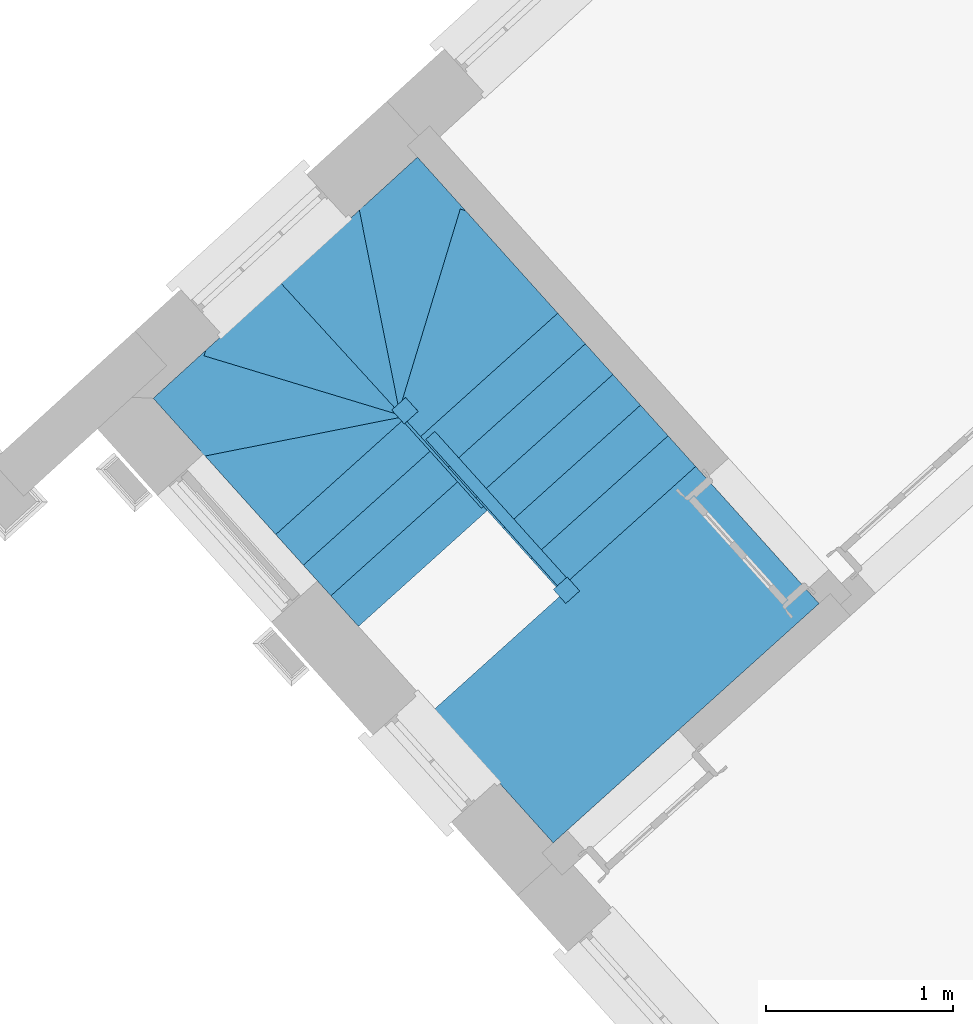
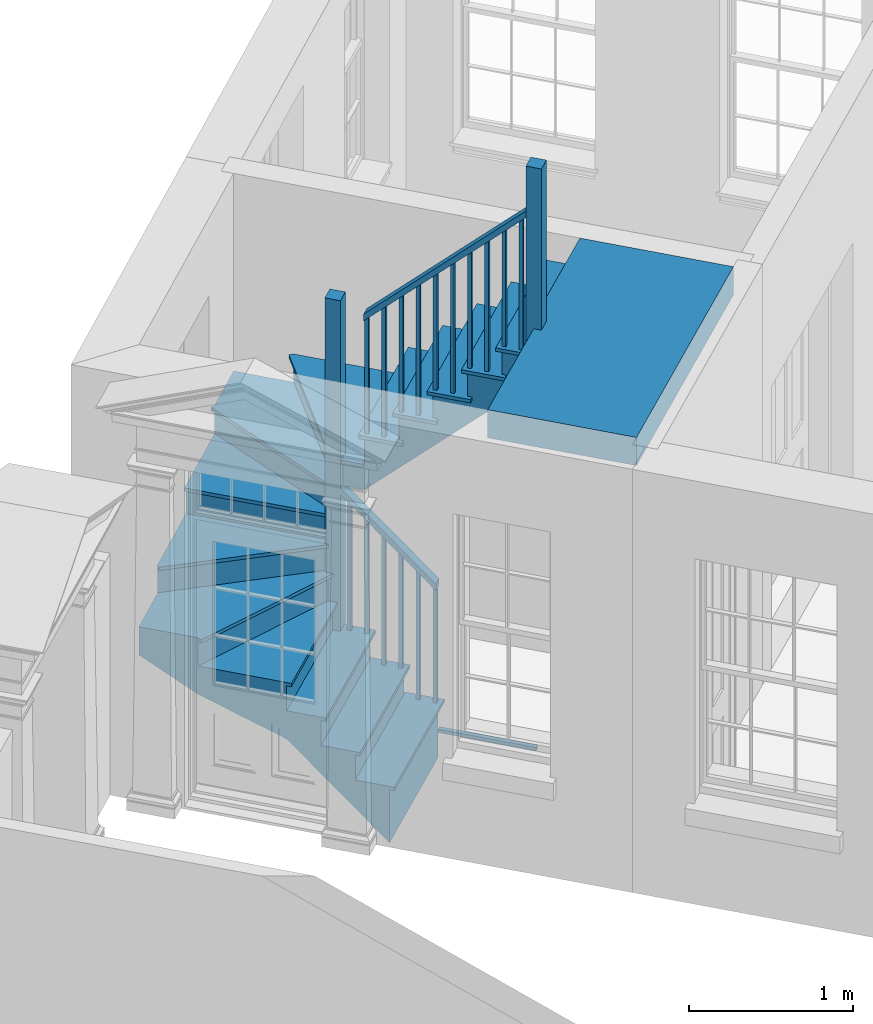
# One storey, part 7 of 7: 1 stair.
"""IFC4 building model written with IfcOpenShell, lengths in metres."""

from ifc_helpers import new_model, si_unit, frame, origin, origin_with_axes, place, context, subcontext, project, spatial, faceted_brep, element, save


model = new_model("IFC4")

# Units and contexts
model_context = context("Model", 3, world=origin_with_axes())
body_context = subcontext(model_context, "Body", "Model", "MODEL_VIEW")
ifc_project = project(units=[si_unit("PLANEANGLEUNIT", "RADIAN"), si_unit("MASSUNIT", "GRAM", prefix="KILO"), si_unit("FORCEUNIT", "NEWTON", prefix="KILO"), si_unit("LENGTHUNIT", "METRE"), si_unit("AREAUNIT", "SQUARE_METRE"), si_unit("VOLUMEUNIT", "CUBIC_METRE")], contexts=[model_context, model_context])

# Sites, building, storey
site_1_placement = place(None, origin_with_axes())
site_1 = spatial("IfcSite", under=ifc_project, at=site_1_placement, Name="Tamar")
site_2_placement = place(site_1_placement, origin_with_axes())
site_2 = spatial("IfcSite", under=site_1, at=site_2_placement, Name="Site plot-7", CompositionType="ELEMENT")
building_placement = place(None, origin_with_axes())
building = spatial("IfcBuilding", under=site_2, at=building_placement, Name="Building plot-7", CompositionType="ELEMENT")
storey_placement = place(None, frame((0.0, 0.0, 26.0), z_axis=(0.0, 0.0, 1.0), x_axis=(1.0, 0.0, 0.0)))
storey = spatial("IfcBuildingStorey", under=building, at=storey_placement, Name="plot-7 0", CompositionType="ELEMENT", Elevation=26.0)

# Stair
stair_placement = place(None, origin())
element("IfcStair", 1, at=stair_placement, inside=storey, Name="Stair", PredefinedType="NOTDEFINED", context=body_context, shape_type="Brep", body=[
    faceted_brep([(241.789682, 286.104978, 28.94), (242.499166, 286.743323, 28.94), (242.352018, 286.906869, 28.94), (241.642534, 286.268525, 28.94), (241.642534, 286.268525, 28.52), (242.352018, 286.906869, 28.52), (242.499166, 286.743323, 28.73), (241.789682, 286.104978, 28.73)], [[[0, 1, 2, 3]], [[4, 5, 6, 7]], [[7, 6, 1, 0]], [[1, 6, 5, 2]], [[5, 4, 3, 2]], [[3, 4, 7, 0]]]),
    faceted_brep([(242.352018, 286.906869, 28.915), (242.331953, 286.929171, 28.915), (242.352018, 286.906869, 28.94), (242.519232, 286.721021, 28.915), (242.499166, 286.743323, 28.915), (242.499166, 286.743323, 28.94), (242.331953, 286.929171, 28.94), (242.519232, 286.721021, 28.94), (241.600167, 286.270761, 28.94), (241.642534, 286.268525, 28.94), (241.642534, 286.268525, 28.915), (241.600167, 286.270761, 28.915), (241.787446, 286.062611, 28.94), (241.789682, 286.104978, 28.94), (241.789682, 286.104978, 28.915), (241.787446, 286.062611, 28.915)], [[[0, 1, 2]], [[3, 4, 5]], [[1, 6, 2]], [[7, 3, 5]], [[2, 6, 8, 9]], [[0, 2, 9, 10]], [[1, 0, 10, 11]], [[6, 1, 11, 8]], [[9, 8, 12, 13]], [[10, 9, 13, 14]], [[11, 10, 14, 15]], [[8, 11, 15, 12]], [[13, 12, 7, 5]], [[14, 13, 5, 4]], [[15, 14, 4, 3]], [[12, 15, 3, 7]]]),
    faceted_brep([(241.642534, 286.268525, 29.84), (241.659255, 286.24994, 29.84), (241.67784, 286.266662, 29.84), (241.661119, 286.285246, 29.84), (241.661119, 286.285246, 28.94), (241.67784, 286.266662, 28.94), (241.659255, 286.24994, 28.94), (241.642534, 286.268525, 28.94)], [[[0, 1, 2, 3]], [[4, 5, 6, 7]], [[7, 6, 1, 0]], [[6, 5, 2, 1]], [[5, 4, 3, 2]], [[4, 7, 0, 3]]]),
    faceted_brep([(241.716108, 286.186752, 29.945), (241.732829, 286.168167, 29.945), (241.751414, 286.184888, 29.945), (241.734693, 286.203473, 29.945), (241.734693, 286.203473, 28.94), (241.751414, 286.184888, 28.94), (241.732829, 286.168167, 28.94), (241.716108, 286.186752, 28.94)], [[[0, 1, 2, 3]], [[4, 5, 6, 7]], [[7, 6, 1, 0]], [[6, 5, 2, 1]], [[5, 4, 3, 2]], [[4, 7, 0, 3]]]),
    faceted_brep([(241.675987, 286.298624, 29.79), (241.627666, 286.255148, 29.79), (241.627666, 286.255148, 29.84), (241.675987, 286.298624, 29.84), (241.774814, 286.091601, 30.0), (241.823135, 286.135077, 30.0), (241.823135, 286.135077, 30.05), (241.774814, 286.091601, 30.05)], [[[0, 1, 2, 3]], [[4, 5, 6, 7]], [[0, 5, 4, 1]], [[3, 2, 7, 6]], [[0, 3, 6, 5]], [[2, 1, 4, 7]]]),
    faceted_brep([(241.642534, 286.268525, 28.73), (242.352018, 286.906869, 28.73), (242.204871, 287.070416, 28.73), (241.495386, 286.432072, 28.73), (241.495386, 286.432072, 28.31), (242.204871, 287.070416, 28.31), (242.352018, 286.906869, 28.52), (241.642534, 286.268525, 28.52)], [[[0, 1, 2, 3]], [[4, 5, 6, 7]], [[7, 6, 1, 0]], [[1, 6, 5, 2]], [[5, 4, 3, 2]], [[3, 4, 7, 0]]]),
    faceted_brep([(242.204871, 287.070416, 28.705), (242.184805, 287.092718, 28.705), (242.204871, 287.070416, 28.73), (242.372084, 286.884567, 28.705), (242.352018, 286.906869, 28.705), (242.352018, 286.906869, 28.73), (242.184805, 287.092718, 28.73), (242.372084, 286.884567, 28.73), (241.453019, 286.434308, 28.73), (241.495386, 286.432072, 28.73), (241.495386, 286.432072, 28.705), (241.453019, 286.434308, 28.705), (241.640298, 286.226158, 28.73), (241.642534, 286.268525, 28.73), (241.642534, 286.268525, 28.705), (241.640298, 286.226158, 28.705)], [[[0, 1, 2]], [[3, 4, 5]], [[1, 6, 2]], [[7, 3, 5]], [[2, 6, 8, 9]], [[0, 2, 9, 10]], [[1, 0, 10, 11]], [[6, 1, 11, 8]], [[9, 8, 12, 13]], [[10, 9, 13, 14]], [[11, 10, 14, 15]], [[8, 11, 15, 12]], [[13, 12, 7, 5]], [[14, 13, 5, 4]], [[15, 14, 4, 3]], [[12, 15, 3, 7]]]),
    faceted_brep([(241.495386, 286.432072, 29.63), (241.512108, 286.413487, 29.63), (241.530693, 286.430208, 29.63), (241.513971, 286.448793, 29.63), (241.513971, 286.448793, 28.73), (241.530693, 286.430208, 28.73), (241.512108, 286.413487, 28.73), (241.495386, 286.432072, 28.73)], [[[0, 1, 2, 3]], [[4, 5, 6, 7]], [[7, 6, 1, 0]], [[6, 5, 2, 1]], [[5, 4, 3, 2]], [[4, 7, 0, 3]]]),
    faceted_brep([(241.56896, 286.350298, 29.735), (241.585682, 286.331714, 29.735), (241.604266, 286.348435, 29.735), (241.587545, 286.36702, 29.735), (241.587545, 286.36702, 28.73), (241.604266, 286.348435, 28.73), (241.585682, 286.331714, 28.73), (241.56896, 286.350298, 28.73)], [[[0, 1, 2, 3]], [[4, 5, 6, 7]], [[7, 6, 1, 0]], [[6, 5, 2, 1]], [[5, 4, 3, 2]], [[4, 7, 0, 3]]]),
    faceted_brep([(241.528839, 286.46217, 29.58), (241.480518, 286.418695, 29.58), (241.480518, 286.418695, 29.63), (241.528839, 286.46217, 29.63), (241.627666, 286.255148, 29.79), (241.675987, 286.298624, 29.79), (241.675987, 286.298624, 29.84), (241.627666, 286.255148, 29.84)], [[[0, 1, 2, 3]], [[4, 5, 6, 7]], [[0, 5, 4, 1]], [[3, 2, 7, 6]], [[0, 3, 6, 5]], [[2, 1, 4, 7]]]),
    faceted_brep([(241.495386, 286.432072, 28.52), (242.204871, 287.070416, 28.52), (242.057723, 287.233963, 28.52), (241.348239, 286.595619, 28.52), (241.348239, 286.595619, 28.1), (242.057723, 287.233963, 28.1), (242.204871, 287.070416, 28.31), (241.495386, 286.432072, 28.31)], [[[0, 1, 2, 3]], [[4, 5, 6, 7]], [[7, 6, 1, 0]], [[1, 6, 5, 2]], [[5, 4, 3, 2]], [[3, 4, 7, 0]]]),
    faceted_brep([(242.057723, 287.233963, 28.495), (242.037657, 287.256264, 28.495), (242.057723, 287.233963, 28.52), (242.224936, 287.048114, 28.495), (242.204871, 287.070416, 28.495), (242.204871, 287.070416, 28.52), (242.037657, 287.256264, 28.52), (242.224936, 287.048114, 28.52), (241.305871, 286.597855, 28.52), (241.348239, 286.595619, 28.52), (241.348239, 286.595619, 28.495), (241.305871, 286.597855, 28.495), (241.49315, 286.389704, 28.52), (241.495386, 286.432072, 28.52), (241.495386, 286.432072, 28.495), (241.49315, 286.389704, 28.495)], [[[0, 1, 2]], [[3, 4, 5]], [[1, 6, 2]], [[7, 3, 5]], [[2, 6, 8, 9]], [[0, 2, 9, 10]], [[1, 0, 10, 11]], [[6, 1, 11, 8]], [[9, 8, 12, 13]], [[10, 9, 13, 14]], [[11, 10, 14, 15]], [[8, 11, 15, 12]], [[13, 12, 7, 5]], [[14, 13, 5, 4]], [[15, 14, 4, 3]], [[12, 15, 3, 7]]]),
    faceted_brep([(241.348239, 286.595619, 29.42), (241.36496, 286.577034, 29.42), (241.383545, 286.593755, 29.42), (241.366823, 286.61234, 29.42), (241.366823, 286.61234, 28.52), (241.383545, 286.593755, 28.52), (241.36496, 286.577034, 28.52), (241.348239, 286.595619, 28.52)], [[[0, 1, 2, 3]], [[4, 5, 6, 7]], [[7, 6, 1, 0]], [[6, 5, 2, 1]], [[5, 4, 3, 2]], [[4, 7, 0, 3]]]),
    faceted_brep([(241.421812, 286.513845, 29.525), (241.438534, 286.49526, 29.525), (241.457119, 286.511982, 29.525), (241.440397, 286.530567, 29.525), (241.440397, 286.530567, 28.52), (241.457119, 286.511982, 28.52), (241.438534, 286.49526, 28.52), (241.421812, 286.513845, 28.52)], [[[0, 1, 2, 3]], [[4, 5, 6, 7]], [[7, 6, 1, 0]], [[6, 5, 2, 1]], [[5, 4, 3, 2]], [[4, 7, 0, 3]]]),
    faceted_brep([(241.381691, 286.625717, 29.37), (241.333371, 286.582241, 29.37), (241.333371, 286.582241, 29.42), (241.381691, 286.625717, 29.42), (241.480518, 286.418695, 29.58), (241.528839, 286.46217, 29.58), (241.528839, 286.46217, 29.63), (241.480518, 286.418695, 29.63)], [[[0, 1, 2, 3]], [[4, 5, 6, 7]], [[0, 5, 4, 1]], [[3, 2, 7, 6]], [[0, 3, 6, 5]], [[2, 1, 4, 7]]]),
    faceted_brep([(241.348239, 286.595619, 28.31), (242.057723, 287.233963, 28.31), (241.910575, 287.397509, 28.31), (241.201091, 286.759165, 28.31), (241.201091, 286.759165, 27.89), (241.910575, 287.397509, 27.89), (242.057723, 287.233963, 28.1), (241.348239, 286.595619, 28.1)], [[[0, 1, 2, 3]], [[4, 5, 6, 7]], [[7, 6, 1, 0]], [[1, 6, 5, 2]], [[5, 4, 3, 2]], [[3, 4, 7, 0]]]),
    faceted_brep([(241.910575, 287.397509, 28.285), (241.890509, 287.419811, 28.285), (241.910575, 287.397509, 28.31), (242.077788, 287.211661, 28.285), (242.057723, 287.233963, 28.285), (242.057723, 287.233963, 28.31), (241.890509, 287.419811, 28.31), (242.077788, 287.211661, 28.31), (241.158723, 286.761401, 28.31), (241.201091, 286.759165, 28.31), (241.201091, 286.759165, 28.285), (241.158723, 286.761401, 28.285), (241.346002, 286.553251, 28.31), (241.348239, 286.595619, 28.31), (241.348239, 286.595619, 28.285), (241.346002, 286.553251, 28.285)], [[[0, 1, 2]], [[3, 4, 5]], [[1, 6, 2]], [[7, 3, 5]], [[2, 6, 8, 9]], [[0, 2, 9, 10]], [[1, 0, 10, 11]], [[6, 1, 11, 8]], [[9, 8, 12, 13]], [[10, 9, 13, 14]], [[11, 10, 14, 15]], [[8, 11, 15, 12]], [[13, 12, 7, 5]], [[14, 13, 5, 4]], [[15, 14, 4, 3]], [[12, 15, 3, 7]]]),
    faceted_brep([(241.201091, 286.759165, 29.21), (241.217812, 286.74058, 29.21), (241.236397, 286.757302, 29.21), (241.219676, 286.775887, 29.21), (241.219676, 286.775887, 28.31), (241.236397, 286.757302, 28.31), (241.217812, 286.74058, 28.31), (241.201091, 286.759165, 28.31)], [[[0, 1, 2, 3]], [[4, 5, 6, 7]], [[7, 6, 1, 0]], [[6, 5, 2, 1]], [[5, 4, 3, 2]], [[4, 7, 0, 3]]]),
    faceted_brep([(241.274665, 286.677392, 29.315), (241.291386, 286.658807, 29.315), (241.309971, 286.675528, 29.315), (241.293249, 286.694113, 29.315), (241.293249, 286.694113, 28.31), (241.309971, 286.675528, 28.31), (241.291386, 286.658807, 28.31), (241.274665, 286.677392, 28.31)], [[[0, 1, 2, 3]], [[4, 5, 6, 7]], [[7, 6, 1, 0]], [[6, 5, 2, 1]], [[5, 4, 3, 2]], [[4, 7, 0, 3]]]),
    faceted_brep([(241.234543, 286.789264, 29.16), (241.186223, 286.745788, 29.16), (241.186223, 286.745788, 29.21), (241.234543, 286.789264, 29.21), (241.333371, 286.582241, 29.37), (241.381691, 286.625717, 29.37), (241.381691, 286.625717, 29.42), (241.333371, 286.582241, 29.42)], [[[0, 1, 2, 3]], [[4, 5, 6, 7]], [[0, 5, 4, 1]], [[3, 2, 7, 6]], [[0, 3, 6, 5]], [[2, 1, 4, 7]]]),
    faceted_brep([(241.201091, 286.759165, 28.1), (241.910575, 287.397509, 28.1), (241.763427, 287.561056, 28.1), (241.053943, 286.922712, 28.1), (241.053943, 286.922712, 27.68), (241.763427, 287.561056, 27.68), (241.910575, 287.397509, 27.89), (241.201091, 286.759165, 27.89)], [[[0, 1, 2, 3]], [[4, 5, 6, 7]], [[7, 6, 1, 0]], [[1, 6, 5, 2]], [[5, 4, 3, 2]], [[3, 4, 7, 0]]]),
    faceted_brep([(241.763427, 287.561056, 28.075), (241.743362, 287.583358, 28.075), (241.763427, 287.561056, 28.1), (241.930641, 287.375207, 28.075), (241.910575, 287.397509, 28.075), (241.910575, 287.397509, 28.1), (241.743362, 287.583358, 28.1), (241.930641, 287.375207, 28.1), (241.011575, 286.924948, 28.1), (241.053943, 286.922712, 28.1), (241.053943, 286.922712, 28.075), (241.011575, 286.924948, 28.075), (241.198854, 286.716798, 28.1), (241.201091, 286.759165, 28.1), (241.201091, 286.759165, 28.075), (241.198854, 286.716798, 28.075)], [[[0, 1, 2]], [[3, 4, 5]], [[1, 6, 2]], [[7, 3, 5]], [[2, 6, 8, 9]], [[0, 2, 9, 10]], [[1, 0, 10, 11]], [[6, 1, 11, 8]], [[9, 8, 12, 13]], [[10, 9, 13, 14]], [[11, 10, 14, 15]], [[8, 11, 15, 12]], [[13, 12, 7, 5]], [[14, 13, 5, 4]], [[15, 14, 4, 3]], [[12, 15, 3, 7]]]),
    faceted_brep([(241.053943, 286.922712, 29.0), (241.070664, 286.904127, 29.0), (241.089249, 286.920848, 29.0), (241.072528, 286.939433, 29.0), (241.072528, 286.939433, 28.1), (241.089249, 286.920848, 28.1), (241.070664, 286.904127, 28.1), (241.053943, 286.922712, 28.1)], [[[0, 1, 2, 3]], [[4, 5, 6, 7]], [[7, 6, 1, 0]], [[6, 5, 2, 1]], [[5, 4, 3, 2]], [[4, 7, 0, 3]]]),
    faceted_brep([(241.127517, 286.840939, 29.105), (241.144238, 286.822354, 29.105), (241.162823, 286.839075, 29.105), (241.146102, 286.85766, 29.105), (241.146102, 286.85766, 28.1), (241.162823, 286.839075, 28.1), (241.144238, 286.822354, 28.1), (241.127517, 286.840939, 28.1)], [[[0, 1, 2, 3]], [[4, 5, 6, 7]], [[7, 6, 1, 0]], [[6, 5, 2, 1]], [[5, 4, 3, 2]], [[4, 7, 0, 3]]]),
    faceted_brep([(241.087396, 286.95281, 28.95), (241.039075, 286.909335, 28.95), (241.039075, 286.909335, 29.0), (241.087396, 286.95281, 29.0), (241.186223, 286.745788, 29.16), (241.234543, 286.789264, 29.16), (241.234543, 286.789264, 29.21), (241.186223, 286.745788, 29.21)], [[[0, 1, 2, 3]], [[4, 5, 6, 7]], [[0, 5, 4, 1]], [[3, 2, 7, 6]], [[0, 3, 6, 5]], [[2, 1, 4, 7]]]),
    faceted_brep([(241.053943, 286.922712, 27.89), (241.763427, 287.561056, 27.89), (241.637337, 287.701198, 27.89), (240.927853, 287.062854, 27.89), (240.927853, 287.062854, 27.68), (241.637337, 287.701198, 27.68), (241.763427, 287.561056, 27.68), (241.053943, 286.922712, 27.68)], [[[0, 1, 2, 3]], [[4, 5, 6, 7]], [[7, 6, 1, 0]], [[6, 5, 2, 1]], [[5, 4, 3, 2]], [[4, 7, 0, 3]]]),
    faceted_brep([(240.927853, 287.062854, 27.865), (240.905551, 287.042788, 27.865), (240.927853, 287.062854, 27.89), (241.031641, 286.902646, 27.865), (241.053943, 286.922712, 27.865), (241.053943, 286.922712, 27.89), (240.905551, 287.042788, 27.89), (241.031641, 286.902646, 27.89)], [[[0, 1, 2]], [[3, 4, 5]], [[1, 6, 2]], [[7, 3, 5]], [[2, 6, 7, 5]], [[0, 2, 5, 4]], [[1, 0, 4, 3]], [[6, 1, 3, 7]]]),
    faceted_brep([(240.857241, 287.066581, 29.09), (240.924126, 286.992241, 29.09), (240.998465, 287.059127, 29.09), (240.93158, 287.133466, 29.09), (240.93158, 287.133466, 27.89), (240.998465, 287.059127, 27.89), (240.924126, 286.992241, 27.89), (240.857241, 287.066581, 27.89)], [[[0, 1, 2, 3]], [[4, 5, 6, 7]], [[7, 6, 1, 0]], [[6, 5, 2, 1]], [[5, 4, 3, 2]], [[4, 7, 0, 3]]]),
    faceted_brep([(241.637337, 287.701198, 27.89), (241.251594, 288.129931, 27.89), (240.927853, 287.062854, 27.89), (240.927853, 287.062854, 27.47), (241.251594, 288.129931, 27.47), (241.637337, 287.701198, 27.68)], [[[0, 1, 2]], [[3, 4, 5]], [[0, 5, 4, 1]], [[4, 3, 2, 1]], [[2, 3, 5, 0]]]),
    faceted_brep([(241.251594, 288.129931, 27.865), (241.222886, 288.13864, 27.865), (241.251594, 288.129931, 27.89), (240.899145, 287.071563, 27.865), (240.927853, 287.062854, 27.865), (240.927853, 287.062854, 27.89), (241.222886, 288.13864, 27.89), (240.899145, 287.071563, 27.89)], [[[0, 1, 2]], [[3, 4, 5]], [[1, 6, 2]], [[7, 3, 5]], [[2, 6, 7, 5]], [[0, 2, 5, 4]], [[1, 0, 4, 3]], [[6, 1, 3, 7]]]),
    faceted_brep([(241.251594, 288.129931, 27.68), (240.994431, 288.415752, 27.68), (240.710448, 288.156561, 27.68), (240.927853, 287.062854, 27.68), (240.927853, 287.062854, 27.26), (240.710448, 288.156561, 27.26), (240.994431, 288.415752, 27.47), (241.251594, 288.129931, 27.47)], [[[0, 1, 2, 3]], [[4, 5, 6, 7]], [[7, 6, 1, 0]], [[1, 6, 5, 2]], [[5, 4, 3, 2]], [[3, 4, 7, 0]]]),
    faceted_brep([(240.681024, 288.150712, 27.655), (240.681024, 288.150712, 27.68), (240.710448, 288.156561, 27.655), (240.898429, 287.057005, 27.68), (240.898429, 287.057005, 27.655), (240.927853, 287.062854, 27.655), (240.710448, 288.156561, 27.68), (240.927853, 287.062854, 27.68)], [[[0, 1, 2]], [[3, 4, 5]], [[2, 1, 6]], [[3, 5, 7]], [[6, 1, 3, 7]], [[2, 6, 7, 5]], [[0, 2, 5, 4]], [[1, 0, 4, 3]]]),
    faceted_brep([(240.710448, 288.156561, 27.47), (240.284473, 287.767775, 27.47), (240.927853, 287.062854, 27.47), (240.927853, 287.062854, 27.05), (240.284473, 287.767775, 27.05), (240.710448, 288.156561, 27.26)], [[[0, 1, 2]], [[3, 4, 5]], [[0, 5, 4, 1]], [[4, 3, 2, 1]], [[2, 3, 5, 0]]]),
    faceted_brep([(240.262315, 287.747551, 27.445), (240.262315, 287.747551, 27.47), (240.284473, 287.767775, 27.445), (240.905695, 287.04263, 27.47), (240.905695, 287.04263, 27.445), (240.927853, 287.062854, 27.445), (240.284473, 287.767775, 27.47), (240.927853, 287.062854, 27.47)], [[[0, 1, 2]], [[3, 4, 5]], [[2, 1, 6]], [[3, 5, 7]], [[6, 1, 3, 7]], [[2, 6, 7, 5]], [[0, 2, 5, 4]], [[1, 0, 4, 3]]]),
    faceted_brep([(240.857241, 287.066581, 27.89), (240.924126, 286.992241, 27.89), (240.998465, 287.059127, 27.89), (240.93158, 287.133466, 27.89), (240.93158, 287.133466, 26.97), (240.998465, 287.059127, 26.97), (240.924126, 286.992241, 26.97), (240.857241, 287.066581, 26.97)], [[[0, 1, 2, 3]], [[4, 5, 6, 7]], [[7, 6, 1, 0]], [[6, 5, 2, 1]], [[5, 4, 3, 2]], [[4, 7, 0, 3]]]),
    faceted_brep([(240.927853, 287.062854, 27.05), (240.284473, 287.767775, 27.05), (240.284473, 287.767775, 27.26), (240.927853, 287.062854, 27.26)], [[[0, 1, 2, 3]], [[1, 0, 3, 2]]]),
    faceted_brep([(240.927853, 287.062854, 27.235), (240.95043, 287.043099, 27.235), (240.927853, 287.062854, 27.26), (240.95043, 287.043099, 27.26)], [[[0, 1, 2]], [[1, 0, 2]], [[1, 3, 2]], [[3, 1, 2]]]),
    faceted_brep([(240.924629, 286.992217, 28.46), (240.99849, 287.05963, 28.46), (240.931077, 287.133491, 28.46), (240.857216, 287.066078, 28.46), (240.857216, 287.066078, 27.26), (240.931077, 287.133491, 27.26), (240.99849, 287.05963, 27.26), (240.924629, 286.992217, 27.26)], [[[0, 1, 2, 3]], [[4, 5, 6, 7]], [[7, 6, 1, 0]], [[6, 5, 2, 1]], [[5, 4, 3, 2]], [[4, 7, 0, 3]]]),
    faceted_brep([(240.284473, 287.767775, 27.26), (239.864522, 287.384486, 27.26), (240.927853, 287.062854, 27.26), (240.927853, 287.062854, 26.84), (239.864522, 287.384486, 26.84), (240.284473, 287.767775, 27.05)], [[[0, 1, 2]], [[3, 4, 5]], [[0, 5, 4, 1]], [[4, 3, 2, 1]], [[2, 3, 5, 0]]]),
    faceted_brep([(239.864522, 287.384486, 27.235), (239.855836, 287.35577, 27.235), (239.864522, 287.384486, 27.26), (240.919167, 287.034139, 27.235), (240.927853, 287.062854, 27.235), (240.927853, 287.062854, 27.26), (239.855836, 287.35577, 27.26), (240.919167, 287.034139, 27.26)], [[[0, 1, 2]], [[3, 4, 5]], [[1, 6, 2]], [[7, 3, 5]], [[2, 6, 7, 5]], [[0, 2, 5, 4]], [[1, 0, 4, 3]], [[6, 1, 3, 7]]]),
    faceted_brep([(239.864522, 287.384486, 27.05), (239.584554, 287.12896, 27.05), (239.83808, 286.84718, 27.05), (240.927853, 287.062854, 27.05), (240.927853, 287.062854, 26.63), (239.83808, 286.84718, 26.63), (239.584554, 287.12896, 26.84), (239.864522, 287.384486, 26.84)], [[[0, 1, 2, 3]], [[4, 5, 6, 7]], [[7, 6, 1, 0]], [[1, 6, 5, 2]], [[5, 4, 3, 2]], [[3, 4, 7, 0]]]),
    faceted_brep([(239.83808, 286.84718, 27.025), (239.843904, 286.81775, 27.025), (239.83808, 286.84718, 27.05), (240.933677, 287.033425, 27.025), (240.927853, 287.062854, 27.025), (240.927853, 287.062854, 27.05), (239.843904, 286.81775, 27.05), (240.933677, 287.033425, 27.05)], [[[0, 1, 2]], [[3, 4, 5]], [[1, 6, 2]], [[7, 3, 5]], [[2, 6, 7, 5]], [[0, 2, 5, 4]], [[1, 0, 4, 3]], [[6, 1, 3, 7]]]),
    faceted_brep([(239.83808, 286.84718, 26.84), (240.218369, 286.42451, 26.84), (240.927853, 287.062854, 26.84), (240.927853, 287.062854, 26.42), (240.218369, 286.42451, 26.42), (239.83808, 286.84718, 26.63)], [[[0, 1, 2]], [[3, 4, 5]], [[0, 5, 4, 1]], [[4, 3, 2, 1]], [[2, 3, 5, 0]]]),
    faceted_brep([(240.238434, 286.402208, 26.815), (240.238434, 286.402208, 26.84), (240.218369, 286.42451, 26.815), (240.947919, 287.040552, 26.84), (240.947919, 287.040552, 26.815), (240.927853, 287.062854, 26.815), (240.218369, 286.42451, 26.84), (240.927853, 287.062854, 26.84)], [[[0, 1, 2]], [[3, 4, 5]], [[2, 1, 6]], [[3, 5, 7]], [[6, 1, 3, 7]], [[2, 6, 7, 5]], [[0, 2, 5, 4]], [[1, 0, 4, 3]]]),
    faceted_brep([(240.924629, 286.992217, 27.26), (240.99849, 287.05963, 27.26), (240.931077, 287.133491, 27.26), (240.857216, 287.066078, 27.26), (240.857216, 287.066078, 26.34), (240.931077, 287.133491, 26.34), (240.99849, 287.05963, 26.34), (240.924629, 286.992217, 26.34)], [[[0, 1, 2, 3]], [[4, 5, 6, 7]], [[7, 6, 1, 0]], [[6, 5, 2, 1]], [[5, 4, 3, 2]], [[4, 7, 0, 3]]]),
    faceted_brep([(240.927853, 287.062854, 26.63), (240.218369, 286.42451, 26.63), (240.365517, 286.260963, 26.63), (241.075001, 286.899307, 26.63), (241.075001, 286.899307, 26.21), (240.365517, 286.260963, 26.21), (240.218369, 286.42451, 26.42), (240.927853, 287.062854, 26.42)], [[[0, 1, 2, 3]], [[4, 5, 6, 7]], [[7, 6, 1, 0]], [[1, 6, 5, 2]], [[5, 4, 3, 2]], [[3, 4, 7, 0]]]),
    faceted_brep([(240.365517, 286.260963, 26.605), (240.385582, 286.238661, 26.605), (240.365517, 286.260963, 26.63), (240.198303, 286.446812, 26.605), (240.218369, 286.42451, 26.605), (240.218369, 286.42451, 26.63), (240.385582, 286.238661, 26.63), (240.198303, 286.446812, 26.63), (241.117368, 286.897071, 26.63), (241.075001, 286.899307, 26.63), (241.075001, 286.899307, 26.605), (241.117368, 286.897071, 26.605), (240.930089, 287.105221, 26.63), (240.927853, 287.062854, 26.63), (240.927853, 287.062854, 26.605), (240.930089, 287.105221, 26.605)], [[[0, 1, 2]], [[3, 4, 5]], [[1, 6, 2]], [[7, 3, 5]], [[2, 6, 8, 9]], [[0, 2, 9, 10]], [[1, 0, 10, 11]], [[6, 1, 11, 8]], [[9, 8, 12, 13]], [[10, 9, 13, 14]], [[11, 10, 14, 15]], [[8, 11, 15, 12]], [[13, 12, 7, 5]], [[14, 13, 5, 4]], [[15, 14, 4, 3]], [[12, 15, 3, 7]]]),
    faceted_brep([(241.075001, 286.899307, 27.53), (241.05828, 286.917892, 27.53), (241.039695, 286.901171, 27.53), (241.056416, 286.882586, 27.53), (241.056416, 286.882586, 26.63), (241.039695, 286.901171, 26.63), (241.05828, 286.917892, 26.63), (241.075001, 286.899307, 26.63)], [[[0, 1, 2, 3]], [[4, 5, 6, 7]], [[7, 6, 1, 0]], [[6, 5, 2, 1]], [[5, 4, 3, 2]], [[4, 7, 0, 3]]]),
    faceted_brep([(241.001427, 286.98108, 27.635), (240.984706, 286.999665, 27.635), (240.966121, 286.982944, 27.635), (240.982842, 286.964359, 27.635), (240.982842, 286.964359, 26.63), (240.966121, 286.982944, 26.63), (240.984706, 286.999665, 26.63), (241.001427, 286.98108, 26.63)], [[[0, 1, 2, 3]], [[4, 5, 6, 7]], [[7, 6, 1, 0]], [[6, 5, 2, 1]], [[5, 4, 3, 2]], [[4, 7, 0, 3]]]),
    faceted_brep([(241.041548, 286.869209, 27.48), (241.089869, 286.912684, 27.48), (241.089869, 286.912684, 27.53), (241.041548, 286.869209, 27.53), (240.942721, 287.076231, 27.69), (240.8944, 287.032755, 27.69), (240.8944, 287.032755, 27.74), (240.942721, 287.076231, 27.74)], [[[0, 1, 2, 3]], [[4, 5, 6, 7]], [[0, 5, 4, 1]], [[3, 2, 7, 6]], [[0, 3, 6, 5]], [[2, 1, 4, 7]]]),
    faceted_brep([(241.075001, 286.899307, 26.42), (240.365517, 286.260963, 26.42), (240.512664, 286.097416, 26.42), (241.222149, 286.73576, 26.42), (241.222149, 286.73576, 26.0), (240.512664, 286.097416, 26.0), (240.365517, 286.260963, 26.21), (241.075001, 286.899307, 26.21)], [[[0, 1, 2, 3]], [[4, 5, 6, 7]], [[7, 6, 1, 0]], [[1, 6, 5, 2]], [[5, 4, 3, 2]], [[3, 4, 7, 0]]]),
    faceted_brep([(240.53273, 286.075114, 26.395), (240.53273, 286.075114, 26.42), (240.512664, 286.097416, 26.395), (240.345451, 286.283265, 26.42), (240.345451, 286.283265, 26.395), (240.365517, 286.260963, 26.395), (240.512664, 286.097416, 26.42), (240.365517, 286.260963, 26.42), (241.264516, 286.733524, 26.42), (241.222149, 286.73576, 26.42), (241.222149, 286.73576, 26.395), (241.264516, 286.733524, 26.395), (241.077237, 286.941675, 26.42), (241.075001, 286.899307, 26.42), (241.075001, 286.899307, 26.395), (241.077237, 286.941675, 26.395)], [[[0, 1, 2]], [[3, 4, 5]], [[2, 1, 6]], [[3, 5, 7]], [[6, 1, 8, 9]], [[2, 6, 9, 10]], [[0, 2, 10, 11]], [[1, 0, 11, 8]], [[9, 8, 12, 13]], [[10, 9, 13, 14]], [[11, 10, 14, 15]], [[8, 11, 15, 12]], [[13, 12, 3, 7]], [[14, 13, 7, 5]], [[15, 14, 5, 4]], [[12, 15, 4, 3]]]),
    faceted_brep([(241.222149, 286.73576, 27.32), (241.205427, 286.754345, 27.32), (241.186842, 286.737624, 27.32), (241.203564, 286.719039, 27.32), (241.203564, 286.719039, 26.42), (241.186842, 286.737624, 26.42), (241.205427, 286.754345, 26.42), (241.222149, 286.73576, 26.42)], [[[0, 1, 2, 3]], [[4, 5, 6, 7]], [[7, 6, 1, 0]], [[6, 5, 2, 1]], [[5, 4, 3, 2]], [[4, 7, 0, 3]]]),
    faceted_brep([(241.148575, 286.817534, 27.425), (241.131853, 286.836119, 27.425), (241.113269, 286.819397, 27.425), (241.12999, 286.800812, 27.425), (241.12999, 286.800812, 26.42), (241.113269, 286.819397, 26.42), (241.131853, 286.836119, 26.42), (241.148575, 286.817534, 26.42)], [[[0, 1, 2, 3]], [[4, 5, 6, 7]], [[7, 6, 1, 0]], [[6, 5, 2, 1]], [[5, 4, 3, 2]], [[4, 7, 0, 3]]]),
    faceted_brep([(241.188696, 286.705662, 27.27), (241.237017, 286.749137, 27.27), (241.237017, 286.749137, 27.32), (241.188696, 286.705662, 27.32), (241.089869, 286.912684, 27.48), (241.041548, 286.869209, 27.48), (241.041548, 286.869209, 27.53), (241.089869, 286.912684, 27.53)], [[[0, 1, 2, 3]], [[4, 5, 6, 7]], [[0, 5, 4, 1]], [[3, 2, 7, 6]], [[0, 3, 6, 5]], [[2, 1, 4, 7]]]),
    faceted_brep([(241.222149, 286.73576, 26.21), (240.512664, 286.097416, 26.21), (240.659812, 285.93387, 26.21), (241.369296, 286.572214, 26.21), (241.369296, 286.572214, 25.79), (240.659812, 285.93387, 25.79), (240.512664, 286.097416, 26.0), (241.222149, 286.73576, 26.0)], [[[0, 1, 2, 3]], [[4, 5, 6, 7]], [[7, 6, 1, 0]], [[1, 6, 5, 2]], [[5, 4, 3, 2]], [[3, 4, 7, 0]]]),
    faceted_brep([(240.659812, 285.93387, 26.185), (240.679878, 285.911568, 26.185), (240.659812, 285.93387, 26.21), (240.492599, 286.119718, 26.185), (240.512664, 286.097416, 26.185), (240.512664, 286.097416, 26.21), (240.679878, 285.911568, 26.21), (240.492599, 286.119718, 26.21), (241.411664, 286.569978, 26.21), (241.369296, 286.572214, 26.21), (241.369296, 286.572214, 26.185), (241.411664, 286.569978, 26.185), (241.224385, 286.778128, 26.21), (241.222149, 286.73576, 26.21), (241.222149, 286.73576, 26.185), (241.224385, 286.778128, 26.185)], [[[0, 1, 2]], [[3, 4, 5]], [[1, 6, 2]], [[7, 3, 5]], [[2, 6, 8, 9]], [[0, 2, 9, 10]], [[1, 0, 10, 11]], [[6, 1, 11, 8]], [[9, 8, 12, 13]], [[10, 9, 13, 14]], [[11, 10, 14, 15]], [[8, 11, 15, 12]], [[13, 12, 7, 5]], [[14, 13, 5, 4]], [[15, 14, 4, 3]], [[12, 15, 3, 7]]]),
    faceted_brep([(241.369296, 286.572214, 27.11), (241.352575, 286.590799, 27.11), (241.33399, 286.574077, 27.11), (241.350712, 286.555492, 27.11), (241.350712, 286.555492, 26.21), (241.33399, 286.574077, 26.21), (241.352575, 286.590799, 26.21), (241.369296, 286.572214, 26.21)], [[[0, 1, 2, 3]], [[4, 5, 6, 7]], [[7, 6, 1, 0]], [[6, 5, 2, 1]], [[5, 4, 3, 2]], [[4, 7, 0, 3]]]),
    faceted_brep([(241.295723, 286.653987, 27.215), (241.279001, 286.672572, 27.215), (241.260416, 286.655851, 27.215), (241.277138, 286.637266, 27.215), (241.277138, 286.637266, 26.21), (241.260416, 286.655851, 26.21), (241.279001, 286.672572, 26.21), (241.295723, 286.653987, 26.21)], [[[0, 1, 2, 3]], [[4, 5, 6, 7]], [[7, 6, 1, 0]], [[6, 5, 2, 1]], [[5, 4, 3, 2]], [[4, 7, 0, 3]]]),
    faceted_brep([(241.335844, 286.542115, 27.06), (241.384164, 286.585591, 27.06), (241.384164, 286.585591, 27.11), (241.335844, 286.542115, 27.11), (241.237017, 286.749137, 27.27), (241.188696, 286.705662, 27.27), (241.188696, 286.705662, 27.32), (241.237017, 286.749137, 27.32)], [[[0, 1, 2, 3]], [[4, 5, 6, 7]], [[0, 5, 4, 1]], [[3, 2, 7, 6]], [[0, 3, 6, 5]], [[2, 1, 4, 7]]]),
    faceted_brep([(241.789682, 286.104978, 25.975), (241.811984, 286.125044, 25.975), (241.789682, 286.104978, 26.0), (241.391598, 286.592279, 25.975), (241.369296, 286.572214, 25.975), (241.369296, 286.572214, 26.0), (241.811984, 286.125044, 26.0), (241.391598, 286.592279, 26.0)], [[[0, 1, 2]], [[3, 4, 5]], [[1, 6, 2]], [[7, 3, 5]], [[2, 6, 7, 5]], [[0, 2, 5, 4]], [[1, 0, 4, 3]], [[6, 1, 3, 7]]]),
    faceted_brep([(241.860294, 286.101251, 30.35), (241.793409, 286.175591, 30.35), (241.71907, 286.108705, 30.35), (241.785955, 286.034366, 30.35), (241.785955, 286.034366, 29.15), (241.71907, 286.108705, 29.15), (241.793409, 286.175591, 29.15), (241.860294, 286.101251, 29.15)], [[[0, 1, 2, 3]], [[4, 5, 6, 7]], [[7, 6, 1, 0]], [[6, 5, 2, 1]], [[5, 4, 3, 2]], [[4, 7, 0, 3]]]),
    faceted_brep([(241.789682, 286.104978, 29.15), (241.080198, 285.466634, 29.15), (241.718542, 284.75715, 29.15), (242.428026, 285.395494, 29.15), (242.428026, 285.395494, 28.94), (241.718542, 284.75715, 28.94), (241.080198, 285.466634, 28.94), (241.789682, 286.104978, 28.94)], [[[0, 1, 2, 3]], [[4, 5, 6, 7]], [[7, 6, 1, 0]], [[6, 5, 2, 1]], [[5, 4, 3, 2]], [[4, 7, 0, 3]]]),
    faceted_brep([(242.450328, 285.41556, 29.125), (242.450328, 285.41556, 29.15), (242.428026, 285.395494, 29.125), (241.811984, 286.125044, 29.15), (241.811984, 286.125044, 29.125), (241.789682, 286.104978, 29.125), (242.428026, 285.395494, 29.15), (241.789682, 286.104978, 29.15)], [[[0, 1, 2]], [[3, 4, 5]], [[2, 1, 6]], [[3, 5, 7]], [[6, 1, 3, 7]], [[2, 6, 7, 5]], [[0, 2, 5, 4]], [[1, 0, 4, 3]]]),
    faceted_brep([(241.860294, 286.101251, 29.15), (241.793409, 286.175591, 29.15), (241.71907, 286.108705, 29.15), (241.785955, 286.034366, 29.15), (241.785955, 286.034366, 28.65), (241.71907, 286.108705, 28.65), (241.793409, 286.175591, 28.65), (241.860294, 286.101251, 28.65)], [[[0, 1, 2, 3]], [[4, 5, 6, 7]], [[7, 6, 1, 0]], [[6, 5, 2, 1]], [[5, 4, 3, 2]], [[4, 7, 0, 3]]]),
    faceted_brep([(241.789682, 286.104978, 28.94), (242.428026, 285.395494, 28.94), (242.428026, 285.395494, 29.15), (241.789682, 286.104978, 29.15)], [[[0, 1, 2, 3]], [[1, 0, 3, 2]]]),
    faceted_brep([(241.789682, 286.104978, 29.125), (241.771391, 286.128757, 29.125), (241.789682, 286.104978, 29.15), (241.771391, 286.128757, 29.15)], [[[0, 1, 2]], [[1, 0, 2]], [[1, 3, 2]], [[3, 1, 2]]]),
    faceted_brep([(241.793409, 286.175591, 30.35), (241.71907, 286.108705, 30.35), (241.785955, 286.034366, 30.35), (241.860294, 286.101251, 30.35), (241.860294, 286.101251, 29.15), (241.785955, 286.034366, 29.15), (241.71907, 286.108705, 29.15), (241.793409, 286.175591, 29.15)], [[[0, 1, 2, 3]], [[4, 5, 6, 7]], [[7, 6, 1, 0]], [[6, 5, 2, 1]], [[5, 4, 3, 2]], [[4, 7, 0, 3]]]),
    faceted_brep([(241.789682, 286.104978, 29.15), (242.428026, 285.395494, 29.15), (243.13751, 286.033838, 29.15), (242.499166, 286.743323, 29.15), (242.499166, 286.743323, 28.94), (243.13751, 286.033838, 28.94), (242.428026, 285.395494, 28.94), (241.789682, 286.104978, 28.94)], [[[0, 1, 2, 3]], [[4, 5, 6, 7]], [[7, 6, 1, 0]], [[6, 5, 2, 1]], [[5, 4, 3, 2]], [[4, 7, 0, 3]]]),
    faceted_brep([(242.499166, 286.743323, 29.125), (242.479101, 286.765624, 29.125), (242.499166, 286.743323, 29.15), (241.769616, 286.12728, 29.125), (241.789682, 286.104978, 29.125), (241.789682, 286.104978, 29.15), (242.479101, 286.765624, 29.15), (241.769616, 286.12728, 29.15)], [[[0, 1, 2]], [[3, 4, 5]], [[1, 6, 2]], [[7, 3, 5]], [[2, 6, 7, 5]], [[0, 2, 5, 4]], [[1, 0, 4, 3]], [[6, 1, 3, 7]]]),
    faceted_brep([(241.793409, 286.175591, 29.15), (241.71907, 286.108705, 29.15), (241.785955, 286.034366, 29.15), (241.860294, 286.101251, 29.15), (241.860294, 286.101251, 28.65), (241.785955, 286.034366, 28.65), (241.71907, 286.108705, 28.65), (241.793409, 286.175591, 28.65)], [[[0, 1, 2, 3]], [[4, 5, 6, 7]], [[7, 6, 1, 0]], [[6, 5, 2, 1]], [[5, 4, 3, 2]], [[4, 7, 0, 3]]]),
])

save(model, "model.ifc")
